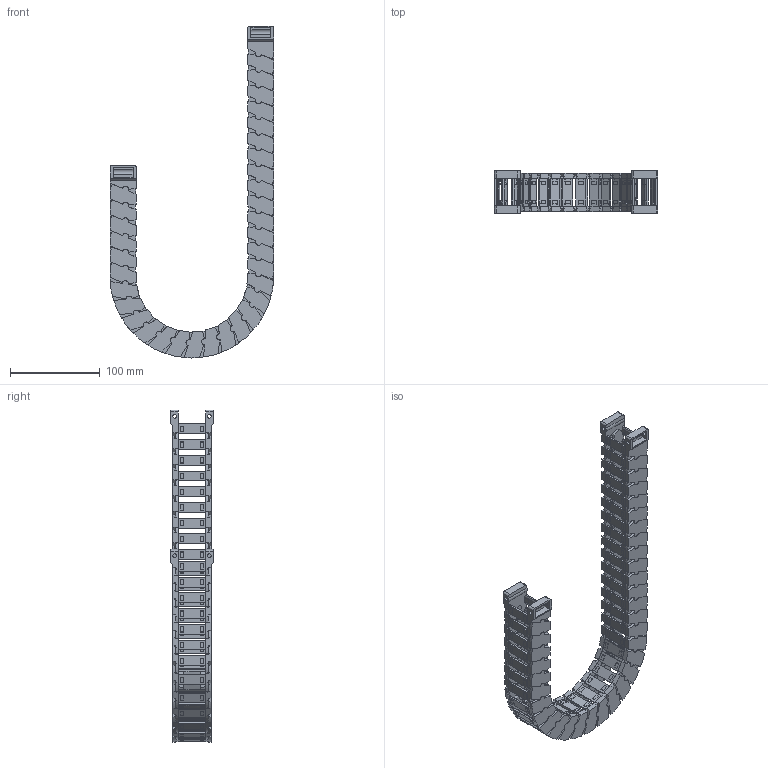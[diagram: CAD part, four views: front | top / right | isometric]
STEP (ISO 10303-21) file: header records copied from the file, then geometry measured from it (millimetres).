
FILE_DESCRIPTION(/* description */ (''),/* implementation_level */ '2;1');
FILE_NAME(/* name */ 'JY22-30-R75.stp',/* time_stamp */ '2026-06-20T14:17:23+08:00',/* author */ (''),/* organization */ (''),/* preprocessor_version */ 'ST-DEVELOPER v19.4',/* originating_system */ 'SIEMENS PLM Software NX2306.5001',/* authorisation */ '');
FILE_SCHEMA (('AP203_CONFIGURATION_CONTROLLED_3D_DESIGN_OF_MECHANICAL_PARTS_AND_ASSEMBLIES_MIM_LF { 1 0 10303 403 2 1 2}'));
Products named in the file (1): 简易图纸_objects
Bounding box: 182.32 x 47.5 x 369.64 mm (x, y, z)
Volume: 256964.4 mm3; surface area: 229788 mm2
Topology: 35 solids, 35 shells, 5796 faces, 18770 edges, 12494 vertices
Faces by surface type: plane 4338, cylinder 918, cone 272, bspline 268
Full cylindrical faces by diameter (mm): 4.2 x8, 7 x68, 7.1 x68
Entity records: 215779 total; most frequent: CARTESIAN_POINT 51317, ORIENTED_EDGE 36964, DIRECTION 31874, EDGE_CURVE 18482, LINE 12616, VECTOR 12616, VERTEX_POINT 12350, AXIS2_PLACEMENT_3D 9629
